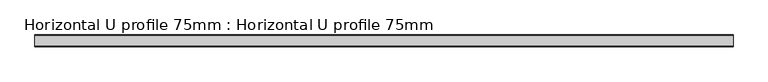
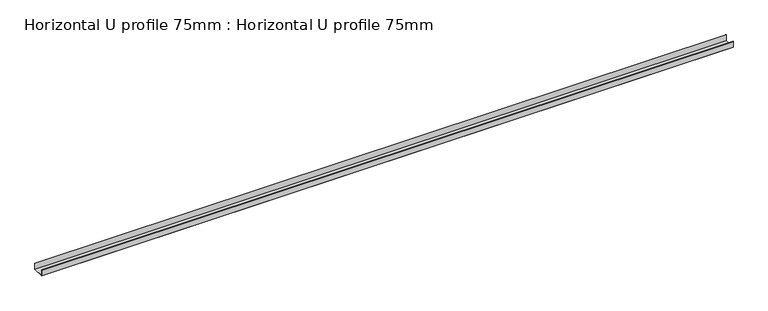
"""IFC4 building model written with IfcOpenShell, lengths in millimetres: proxy geometry, Horizontal U profile 75mm : Horizontal U profile 75mm."""

from ifc_helpers import new_model, si_unit, frame, origin, place, context, project, spatial, polyline, outline, extrude, source, transform, mapped, element, save


def horizontal_u_profile_75mm_horizontal_u_profile_75mm_bb70ac87(model_context):
    return source(origin(), model_context, "Body", "SweptSolid", [
        extrude(outline(polyline([(-38.8, 0.0), (-38.8, 40.0), (-38.0, 40.0), (-38.0, 0.8), (35.4, 0.8), (35.4, 40.0), (36.2, 40.0), (36.2, 0.0), (-38.8, 0.0)])), frame((0.0, 0.0, 0.0), z_axis=(1.0, 0.0, 0.0), x_axis=(0.0, 1.0, 0.0)), (0.0, 0.0, 1.0), 4480.0),
    ])


if __name__ == "__main__":
    model = new_model("IFC4")
    model_context = context("Model", 3, world=origin())
    ifc_project = project(units=[si_unit("LENGTHUNIT", "METRE", prefix="MILLI")], contexts=[model_context])
    site = spatial("IfcSite", under=ifc_project)
    building = spatial("IfcBuilding", under=site)
    placement = place(None, origin())
    horizontal_u_profile_75mm_horizontal_u_profile_75mm_shape = horizontal_u_profile_75mm_horizontal_u_profile_75mm_bb70ac87(model_context)
    element("IfcBuildingElementProxy", 1, Name="Horizontal U profile 75mm : Horizontal U profile 75mm", ObjectType="Horizontal U profile 75mm : Horizontal U profile 75mm", at=placement, inside=building, context=model_context, shape_type="MappedRepresentation", body=[
        mapped(horizontal_u_profile_75mm_horizontal_u_profile_75mm_shape, transform((0.0, 0.0, 0.0), x_axis=(1.0, 0.0, 0.0), y_axis=(0.0, 1.0, 0.0), z_axis=(0.0, 0.0, 1.0))),
    ])
    save(model, "model.ifc")
